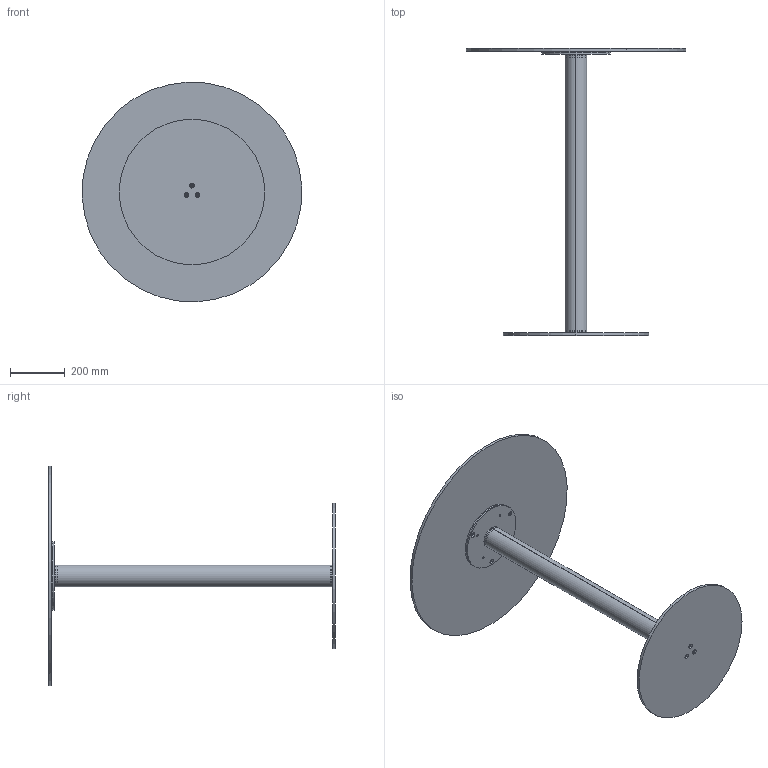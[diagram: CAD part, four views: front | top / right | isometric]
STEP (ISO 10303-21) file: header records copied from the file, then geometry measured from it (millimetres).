
FILE_DESCRIPTION (( 'STEP AP203' ), '1' );
FILE_NAME ('CB40G.STEP', '2024-08-08T08:53:07', ( '' ), ( '' ), 'SwSTEP 2.0', 'SolidWorks 2022', '' );
FILE_SCHEMA (( 'CONFIG_CONTROL_DESIGN' ));
Length unit declared in the file: millimetre
Products named in the file (7): C1XCRMXX-00-piani Rotondi Cristallo_C02 D.80cm; CBS200000PST-00-CONTROPIASTRA PER PIASTRA D.25cm GREZZO_250; CBS000000BAS-00-BISTRO PIASTRA INFERIORE_D.530; CXXCRXX-00-Piani Rotondi in Cristallo CON PIASTRA_C02P PIANO CRISTALLO D.80cm; P0000003-00-STAFFA DI FISSAGGIO DIAMETRO 250_P0000003-250mm normale; CBSH00000COL-01-CILINDRO BISTRO COLONNA H105; CB40G
Assembly tree (6 placements, depth 3):
  CB40G
    CBS000000BAS-00-BISTRO PIASTRA INFERIORE_D.530
    CBSH00000COL-01-CILINDRO BISTRO COLONNA H105
    CXXCRXX-00-Piani Rotondi in Cristallo CON PIASTRA_C02P PIANO CRISTALLO D.80cm
      C1XCRMXX-00-piani Rotondi Cristallo_C02 D.80cm
      P0000003-00-STAFFA DI FISSAGGIO DIAMETRO 250_P0000003-250mm normale
    CBS200000PST-00-CONTROPIASTRA PER PIASTRA D.25cm GREZZO_250
Bounding box: 799.2 x 1045 x 799.2 mm (x, y, z)
Volume: 8304845.7 mm3; surface area: 2212413.4 mm2
Topology: 7 solids, 7 shells, 104 faces, 244 edges, 154 vertices
Faces by surface type: cylinder 64, cone 26, plane 14
Entity records: 3875 total; most frequent: DIRECTION 626, CARTESIAN_POINT 512, ORIENTED_EDGE 488, AXIS2_PLACEMENT_3D 268, EDGE_CURVE 244, CIRCLE 154, VERTEX_POINT 154, EDGE_LOOP 154
